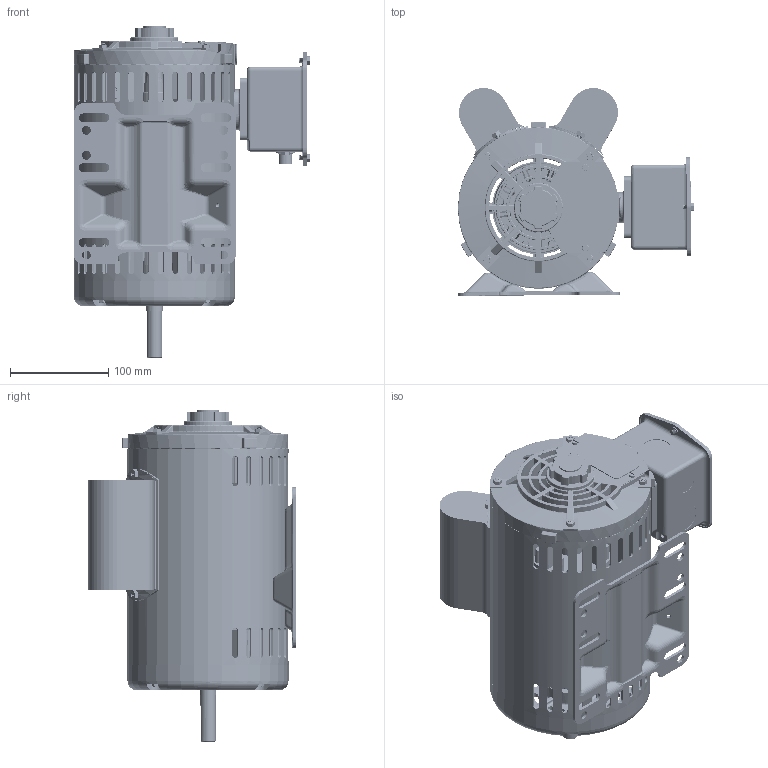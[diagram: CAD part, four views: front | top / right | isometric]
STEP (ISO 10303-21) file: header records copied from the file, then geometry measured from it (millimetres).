
FILE_DESCRIPTION (( 'STEP AP203' ), '1' );
FILE_NAME ('×°ÅäÌå3.STEP', '2024-12-19T06:28:03', ( 'User' ), ( 'China' ), 'SwSTEP 2.0', 'SolidWorks 2019', '' );
FILE_SCHEMA (( 'CONFIG_CONTROL_DESIGN' ));
Length unit declared in the file: millimetre
Products named in the file (13): 爾え; KRD-BFP163SA02; 堤盄碟; 菁褐; gd; xinz; saitou; 郋粣; 蹟佪; 蹟裝; 蚾饜极3; 11; OJ-56CRD(2HP)-陔
Assembly tree (21 placements, depth 2):
  蚾饜极3
    OJ-56CRD(2HP)-陔
    KRD-BFP163SA02
    菁褐
    xinz
    郋粣
    蹟裝  x4
    11  x4
    爾え
    堤盄碟
    gd
    saitou
    蹟佪  x4
Bounding box: 240.52 x 211.34 x 338.15 mm (x, y, z)
Volume: 1791098.2 mm3; surface area: 789725.9 mm2
Topology: 36 solids, 36 shells, 4135 faces, 10687 edges, 6612 vertices
Faces by surface type: cylinder 1742, plane 1171, cone 410, bspline 409, torus 317, sphere 86
Entity records: 135006 total; most frequent: CARTESIAN_POINT 54771, ORIENTED_EDGE 17156, DIRECTION 15639, EDGE_CURVE 8578, AXIS2_PLACEMENT_3D 5983, VERTEX_POINT 5365, EDGE_LOOP 3701, VECTOR 3673
